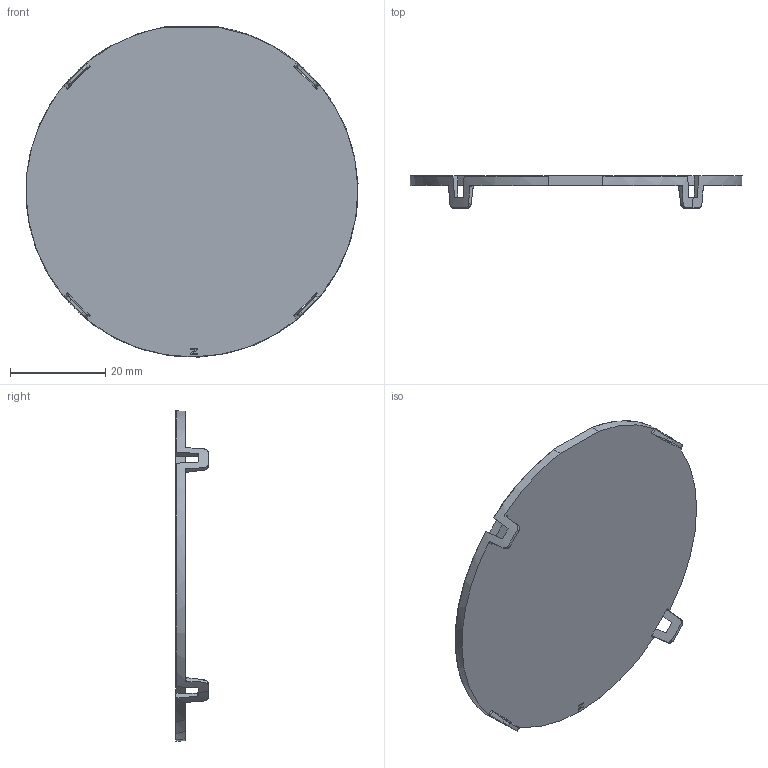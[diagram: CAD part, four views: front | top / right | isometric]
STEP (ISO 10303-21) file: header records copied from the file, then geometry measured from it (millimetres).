
FILE_DESCRIPTION(('STEP AP203'),'1');
FILE_NAME('LLD05N1.step','2019-01-23T08:10:22',(' '),(' '),'Spatial InterOp 3D',' ',' ');
FILE_SCHEMA(('CONFIG_CONTROL_DESIGN'));
Length unit declared in the file: millimetre
Products named in the file (2): 1; 2
Bounding box: 69.83 x 6.76 x 69.43 mm (x, y, z)
Volume: 7701.5 mm3; surface area: 8313.2 mm2
Topology: 1 solids, 4 shells, 79 faces, 255 edges, 170 vertices
Faces by surface type: plane 47, revolution 32
Entity records: 3150 total; most frequent: CARTESIAN_POINT 1352, ORIENTED_EDGE 494, B_SPLINE_CURVE_WITH_KNOTS 262, EDGE_CURVE 251, VERTEX_POINT 170, DIRECTION 130, EDGE_LOOP 80, ADVANCED_FACE 76
